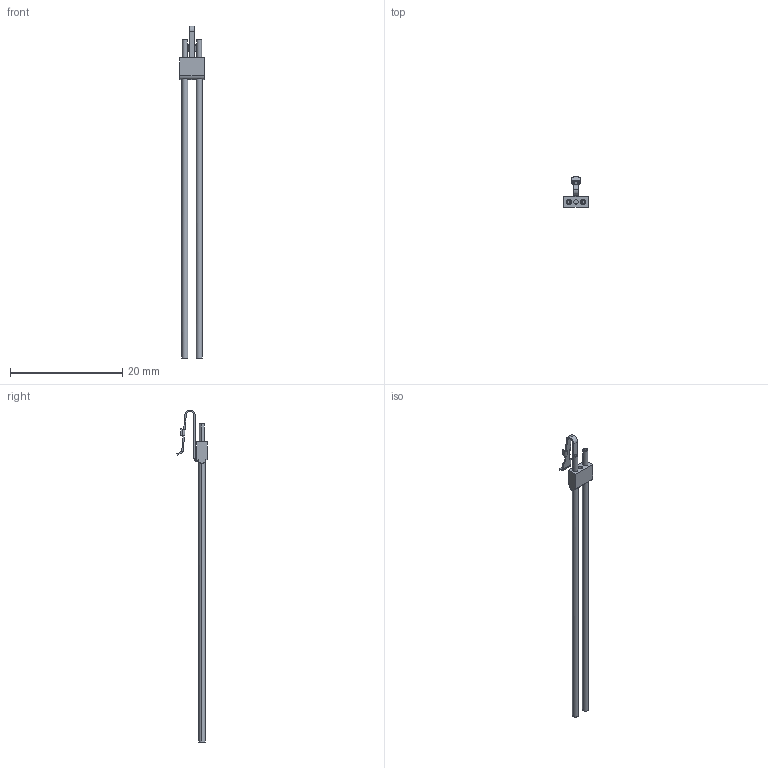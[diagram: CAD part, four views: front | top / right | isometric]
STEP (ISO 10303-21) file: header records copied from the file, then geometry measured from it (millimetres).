
FILE_DESCRIPTION (( 'STEP AP214' ), '1' );
FILE_NAME ('A25000-002.STEP', '2015-11-04T13:46:01', ( '' ), ( '' ), 'SwSTEP 2.0', 'SolidWorks 2015', '' );
FILE_SCHEMA (( 'AUTOMOTIVE_DESIGN' ));
Length unit declared in the file: inch
Products named in the file (1): A25000-002
Bounding box: 4.32 x 5.45 x 59.11 mm (x, y, z)
Volume: 128.9 mm3; surface area: 526.8 mm2
Topology: 1 solids, 3 shells, 115 faces, 276 edges, 181 vertices
Faces by surface type: plane 62, cylinder 46, torus 7
Entity records: 3475 total; most frequent: CARTESIAN_POINT 651, DIRECTION 609, ORIENTED_EDGE 552, EDGE_CURVE 276, AXIS2_PLACEMENT_3D 223, VERTEX_POINT 181, LINE 163, VECTOR 163
